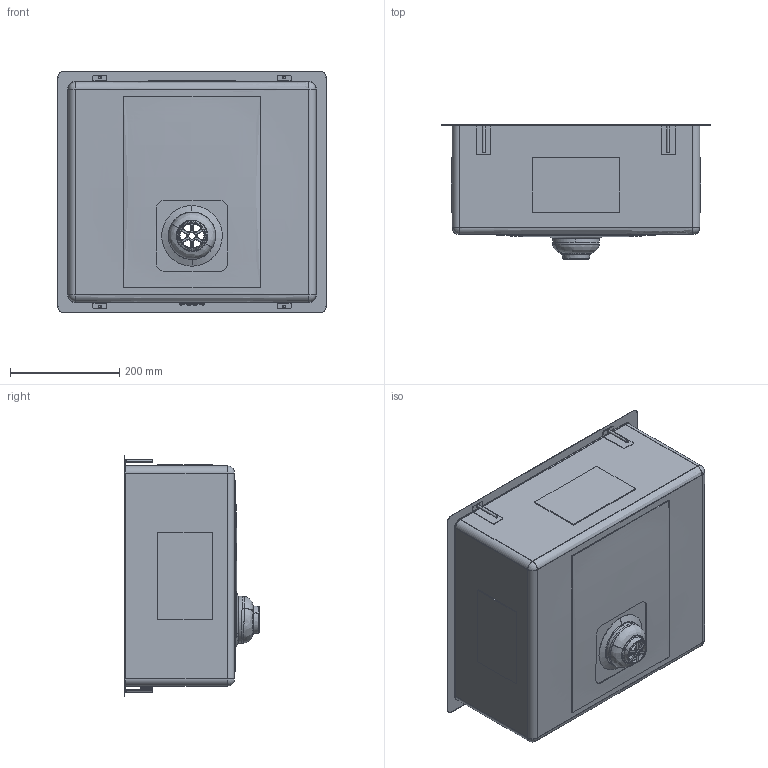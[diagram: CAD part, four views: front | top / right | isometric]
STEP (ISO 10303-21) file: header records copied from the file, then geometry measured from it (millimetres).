
FILE_DESCRIPTION((''),'2;1');
FILE_NAME('1149925_ASM','2025-01-13T14:26:25',('rafaelz'),('Audax d.o.o.'),'CREO PARAMETRIC BY PTC INC, 2020184','CREO PARAMETRIC BY PTC INC, 2020184','');
FILE_SCHEMA(('AP242_MANAGED_MODEL_BASED_3D_ENGINEERING_MIM_LF { 1 0 10303 442 1 1 4 }'));
Length unit declared in the file: millimetre
Products named in the file (11): _210_AB_-_160_X100_-_ESTRU-7271; _130_AA_-_RACCORDO1_-7636; _130_AA_-_RACCORDO1_-8170; _210_AB_-_160_X100_-_ESTR-20611; DEFORMA1; _210_AB_-_160_X100_-_ESTR-21214; _130_AA_-_RACCORDO1_-21356; _TAPP_BA50-_FORO_DEFORMATO_-_DE; _130_AA_-_RACCORDO1_-34914; BA4521I_-_ALVEUS_-_RENDER_TUTTO_ASM; 1149925_ASM
Assembly tree (10 placements, depth 3):
  1149925_ASM
    BA4521I_-_ALVEUS_-_RENDER_TUTTO_ASM
      _210_AB_-_160_X100_-_ESTRU-7271
      _130_AA_-_RACCORDO1_-7636
      _130_AA_-_RACCORDO1_-8170
      _210_AB_-_160_X100_-_ESTR-20611
      DEFORMA1
      _210_AB_-_160_X100_-_ESTR-21214
      _130_AA_-_RACCORDO1_-21356
      _TAPP_BA50-_FORO_DEFORMATO_-_DE
      _130_AA_-_RACCORDO1_-34914
Bounding box: 490 x 246.91 x 440 mm (x, y, z)
Volume: 778360.3 mm3; surface area: 1357362.5 mm2
Topology: 9 solids, 9 shells, 482 faces, 1272 edges, 833 vertices
Faces by surface type: bspline 143, cylinder 139, plane 132, torus 32, cone 12, sphere 12, extrusion 12
Entity records: 41705 total; most frequent: CARTESIAN_POINT 24737, ORIENTED_EDGE 2438, DIRECTION 2142, EDGE_CURVE 1219, AXIS2_PLACEMENT_3D 811, PROPERTY_DEFINITION 788, REPRESENTATION 779, PROPERTY_DEFINITION_REPRESENTATION 779
